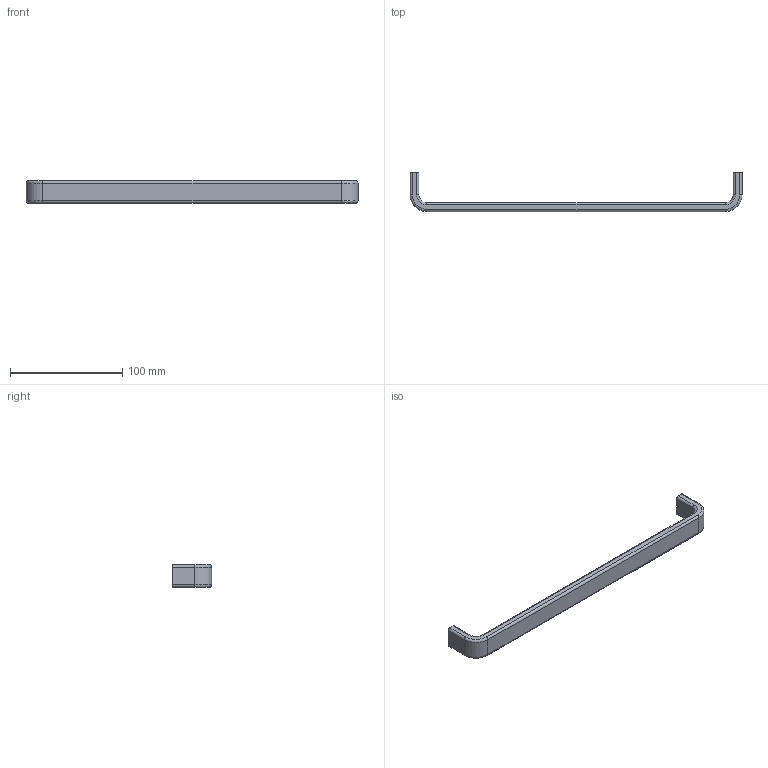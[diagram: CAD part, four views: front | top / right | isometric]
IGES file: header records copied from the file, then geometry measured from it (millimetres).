
Start section: Data from Parasolid IGES Translator 15.0.47, Copyright(c) 2006 Siemens P LM Software. All Rights Reserved.
Global section: file name:  115152.igs; native system:  By UGS Corp.; preprocessor: XPlus GENERIC/IGES 3.0; author: Noname; organization: Noname; date: 20140122.160117; units: millimetre
Bounding box: 296 x 35 x 20 mm (x, y, z)
Surface area: 18529.2 mm2 (no closed solid volume)
Topology: 0 solids, 0 shells, 38 faces, 172 edges, 170 vertices
Faces by surface type: revolution 26, extrusion 12
